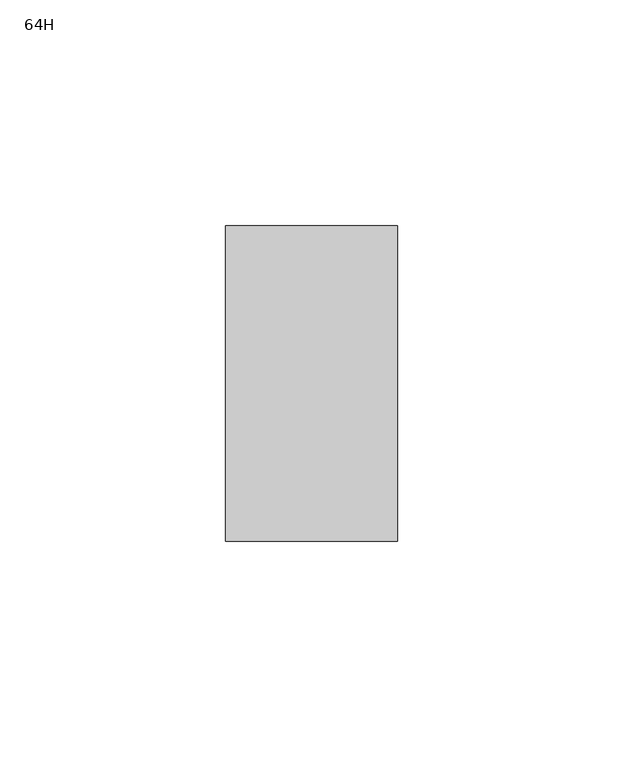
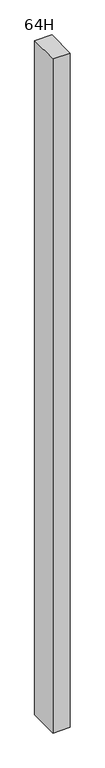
"""IFC4 building model written with IfcOpenShell, lengths in millimetres: furniture geometry, HermanMiller_Compass_TW110_Stile_RailAttached : 64H."""

from ifc_helpers import new_model, si_unit, frame, origin, place, context, project, spatial, polyline, outline, extrude, source, transform, mapped, element, save


def furniture_64h_40b55c4c(model_context):
    return source(origin(), model_context, "Body", "SweptSolid", [
        extrude(outline(polyline([(-19.05, 25.4), (19.05, 25.4), (19.05, -44.45), (-19.05, -44.45), (-19.05, 25.4)])), frame((0.0, 0.0, 527.1492187), z_axis=(0.0, 0.0, 1.0), x_axis=(1.0, 0.0, 0.0)), (0.0, 0.0, 1.0), 1572.7164062),
    ])


if __name__ == "__main__":
    model = new_model("IFC4")
    model_context = context("Model", 3, world=origin())
    ifc_project = project(units=[si_unit("LENGTHUNIT", "METRE", prefix="MILLI")], contexts=[model_context])
    site = spatial("IfcSite", under=ifc_project)
    building = spatial("IfcBuilding", under=site)
    placement = place(None, origin())
    furniture_64h_shape = furniture_64h_40b55c4c(model_context)
    element("IfcFurniture", 1, ObjectType="HermanMiller_Compass_TW110_Stile_RailAttached : 64H", at=placement, inside=building, context=model_context, shape_type="MappedRepresentation", body=[
        mapped(furniture_64h_shape, transform((0.0, 0.0, 0.0), x_axis=(1.0, 0.0, 0.0), y_axis=(0.0, 1.0, 0.0), z_axis=(0.0, 0.0, 1.0))),
    ])
    save(model, "model.ifc")
